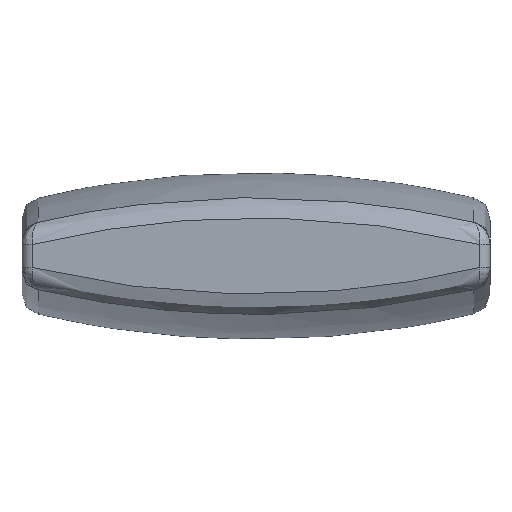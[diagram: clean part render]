
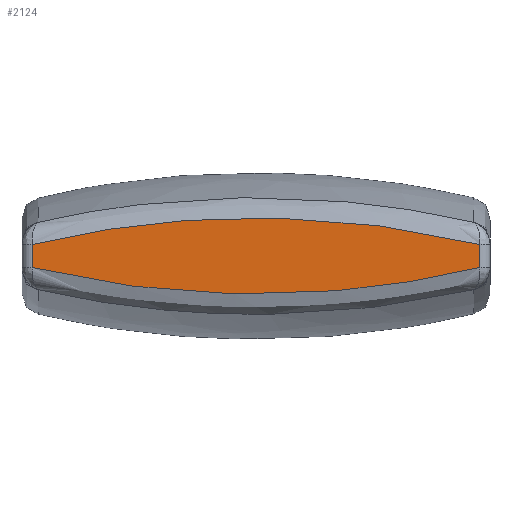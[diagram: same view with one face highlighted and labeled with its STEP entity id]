
A CAD part, front view. The second image highlights one B-rep face of the part: STEP entity #2124.
In plain terms, the highlighted planar face has unit normal (0, -1, 0).
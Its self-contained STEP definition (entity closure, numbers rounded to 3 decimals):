
#2 = EDGE_CURVE ( 'NONE', #232, #815, #2597, .T. ) ;
#55 = CARTESIAN_POINT ( 'NONE',  ( 0., -225., -881.705 ) ) ;
#73 = LINE ( 'NONE', #2615, #495 ) ;
#119 = CARTESIAN_POINT ( 'NONE',  ( 144.021, -225., 25.48 ) ) ;
#123 = ORIENTED_EDGE ( 'NONE', *, *, #2, .T. ) ;
#177 = VERTEX_POINT ( 'NONE', #647 ) ;
#192 = DIRECTION ( 'NONE',  ( 0., 0., 1. ) ) ;
#232 = VERTEX_POINT ( 'NONE', #2120 ) ;
#237 = CARTESIAN_POINT ( 'NONE',  ( -90.178, -225., -32.432 ) ) ;
#246 = VECTOR ( 'NONE', #1822, 1000. ) ;
#358 = CARTESIAN_POINT ( 'NONE',  ( -130.611, -225., 27.346 ) ) ;
#384 = CARTESIAN_POINT ( 'NONE',  ( 36.335, -225., 36.164 ) ) ;
#402 = CARTESIAN_POINT ( 'NONE',  ( 72.367, -225., 34.019 ) ) ;
#477 = CARTESIAN_POINT ( 'NONE',  ( -130.611, -225., -27.346 ) ) ;
#491 = CARTESIAN_POINT ( 'NONE',  ( -36.058, -225., -36.175 ) ) ;
#495 = VECTOR ( 'NONE', #1068, 1000. ) ;
#554 = VECTOR ( 'NONE', #678, 1000. ) ;
#558 = VECTOR ( 'NONE', #2812, 1000. ) ;
#604 = CARTESIAN_POINT ( 'NONE',  ( -112.657, -225., 29.755 ) ) ;
#639 = CARTESIAN_POINT ( 'NONE',  ( -17.972, -225., 36.71 ) ) ;
#643 = VERTEX_POINT ( 'NONE', #2849 ) ;
#647 = CARTESIAN_POINT ( 'NONE',  ( 215., -225., -11.081 ) ) ;
#658 = CARTESIAN_POINT ( 'NONE',  ( -179.678, -225., 19.069 ) ) ;
#678 = DIRECTION ( 'NONE',  ( 0., 0., -1. ) ) ;
#686 = CARTESIAN_POINT ( 'NONE',  ( 90.332, -225., -32.415 ) ) ;
#706 = CARTESIAN_POINT ( 'NONE',  ( -152.967, -225., -23.872 ) ) ;
#795 = CARTESIAN_POINT ( 'NONE',  ( 215., -225., -881.705 ) ) ;
#815 = VERTEX_POINT ( 'NONE', #2269 ) ;
#850 = CARTESIAN_POINT ( 'NONE',  ( -126.129, -225., 27.981 ) ) ;
#866 = CARTESIAN_POINT ( 'NONE',  ( -36.058, -225., 36.175 ) ) ;
#919 = CARTESIAN_POINT ( 'NONE',  ( -215., -225., -881.705 ) ) ;
#929 = EDGE_CURVE ( 'NONE', #643, #2736, #2184, .T. ) ;
#962 = CARTESIAN_POINT ( 'NONE',  ( 179.632, -225., -18.942 ) ) ;
#972 = VERTEX_POINT ( 'NONE', #3328 ) ;
#1009 = CARTESIAN_POINT ( 'NONE',  ( 36.335, -225., -36.164 ) ) ;
#1021 = CARTESIAN_POINT ( 'NONE',  ( -144.039, -225., -25.341 ) ) ;
#1062 = CARTESIAN_POINT ( 'NONE',  ( -215., -225., -11.07 ) ) ;
#1068 = DIRECTION ( 'NONE',  ( 0., 0., 1. ) ) ;
#1117 = VERTEX_POINT ( 'NONE', #1430 ) ;
#1144 = CARTESIAN_POINT ( 'NONE',  ( 126.158, -225., 28.146 ) ) ;
#1188 = VERTEX_POINT ( 'NONE', #1466 ) ;
#1211 = CARTESIAN_POINT ( 'NONE',  ( -197.388, -225., -15.34 ) ) ;
#1230 = CARTESIAN_POINT ( 'NONE',  ( -215., -225., -11.081 ) ) ;
#1268 = DIRECTION ( 'NONE',  ( 1., 0., 0. ) ) ;
#1315 = LINE ( 'NONE', #795, #246 ) ;
#1400 = CARTESIAN_POINT ( 'NONE',  ( -152.967, -225., 23.872 ) ) ;
#1404 = ORIENTED_EDGE ( 'NONE', *, *, #2036, .T. ) ;
#1424 = B_SPLINE_CURVE_WITH_KNOTS ( 'NONE', 3,
 ( #1230, #1211, #1513, #706, #1021, #477, #2019, #2547, #3004, #237, #2516, #491, #1481, #2299, #1009, #3329, #686, #2033, #2244, #3071, #962, #1784, #2813, #1732 ),
 .UNSPECIFIED., .F., .F.,
 ( 4, 2, 2, 2, 2, 2, 2, 2, 2, 2, 2, 4 ),
 ( 0., 0.054, 0.081, 0.095, 0.109, 0.163, 0.217, 0.271, 0.326, 0.38, 0.407, 0.434 ),
 .UNSPECIFIED. ) ;
#1430 = CARTESIAN_POINT ( 'NONE',  ( 215., -225., -11.07 ) ) ;
#1439 = EDGE_CURVE ( 'NONE', #177, #1117, #73, .T. ) ;
#1466 = CARTESIAN_POINT ( 'NONE',  ( -215., -225., -11.081 ) ) ;
#1481 = CARTESIAN_POINT ( 'NONE',  ( -17.972, -225., -36.71 ) ) ;
#1513 = CARTESIAN_POINT ( 'NONE',  ( -179.678, -225., -19.069 ) ) ;
#1664 = CARTESIAN_POINT ( 'NONE',  ( -215., -225., 11.081 ) ) ;
#1687 = DIRECTION ( 'NONE',  ( 0., 0., -1. ) ) ;
#1732 = CARTESIAN_POINT ( 'NONE',  ( 215., -225., -11.081 ) ) ;
#1745 = AXIS2_PLACEMENT_3D ( 'NONE', #55, #2055, #1268 ) ;
#1763 = ORIENTED_EDGE ( 'NONE', *, *, #2718, .T. ) ;
#1784 = CARTESIAN_POINT ( 'NONE',  ( 197.359, -225., -15.209 ) ) ;
#1822 = DIRECTION ( 'NONE',  ( 0., 0., 1. ) ) ;
#1908 = CARTESIAN_POINT ( 'NONE',  ( -90.178, -225., 32.432 ) ) ;
#1943 = CARTESIAN_POINT ( 'NONE',  ( 215., -225., 11.081 ) ) ;
#2019 = CARTESIAN_POINT ( 'NONE',  ( -126.129, -225., -27.981 ) ) ;
#2033 = CARTESIAN_POINT ( 'NONE',  ( 126.158, -225., -28.146 ) ) ;
#2036 = EDGE_CURVE ( 'NONE', #815, #643, #3052, .T. ) ;
#2055 = DIRECTION ( 'NONE',  ( 0., -1., 0. ) ) ;
#2056 = CARTESIAN_POINT ( 'NONE',  ( 215., -225., -881.705 ) ) ;
#2066 = VECTOR ( 'NONE', #1687, 1000. ) ;
#2109 = FACE_OUTER_BOUND ( 'NONE', #2756, .T. ) ;
#2120 = CARTESIAN_POINT ( 'NONE',  ( 215., -225., 11.081 ) ) ;
#2124 = ADVANCED_FACE ( 'NONE', ( #2109 ), #3110, .T. ) ;
#2184 = LINE ( 'NONE', #3219, #558 ) ;
#2244 = CARTESIAN_POINT ( 'NONE',  ( 144.021, -225., -25.48 ) ) ;
#2269 = CARTESIAN_POINT ( 'NONE',  ( -215., -225., 11.081 ) ) ;
#2299 = CARTESIAN_POINT ( 'NONE',  ( 18.267, -225., -36.704 ) ) ;
#2321 = LINE ( 'NONE', #2056, #2654 ) ;
#2383 = ORIENTED_EDGE ( 'NONE', *, *, #2995, .T. ) ;
#2390 = EDGE_CURVE ( 'NONE', #2736, #1188, #2940, .T. ) ;
#2433 = CARTESIAN_POINT ( 'NONE',  ( -117.152, -225., 29.186 ) ) ;
#2450 = CARTESIAN_POINT ( 'NONE',  ( 18.267, -225., 36.704 ) ) ;
#2454 = ORIENTED_EDGE ( 'NONE', *, *, #2390, .T. ) ;
#2468 = CARTESIAN_POINT ( 'NONE',  ( -197.388, -225., 15.34 ) ) ;
#2516 = CARTESIAN_POINT ( 'NONE',  ( -72.161, -225., -34.036 ) ) ;
#2547 = CARTESIAN_POINT ( 'NONE',  ( -117.152, -225., -29.186 ) ) ;
#2571 = ORIENTED_EDGE ( 'NONE', *, *, #2632, .T. ) ;
#2597 = B_SPLINE_CURVE_WITH_KNOTS ( 'NONE', 3,
 ( #1943, #3213, #2920, #2907, #2662, #119, #1144, #3198, #402, #384, #2450, #639, #866, #2713, #1908, #604, #2433, #850, #358, #3233, #1400, #658, #2468, #1664 ),
 .UNSPECIFIED., .F., .F.,
 ( 4, 2, 2, 2, 2, 2, 2, 2, 2, 2, 2, 4 ),
 ( 0., 0.027, 0.054, 0.109, 0.163, 0.217, 0.272, 0.326, 0.34, 0.353, 0.38, 0.435 ),
 .UNSPECIFIED. ) ;
#2615 = CARTESIAN_POINT ( 'NONE',  ( 215., -225., -881.705 ) ) ;
#2632 = EDGE_CURVE ( 'NONE', #972, #232, #2321, .T. ) ;
#2654 = VECTOR ( 'NONE', #192, 1000. ) ;
#2662 = CARTESIAN_POINT ( 'NONE',  ( 170.736, -225., 20.678 ) ) ;
#2713 = CARTESIAN_POINT ( 'NONE',  ( -72.161, -225., 34.036 ) ) ;
#2718 = EDGE_CURVE ( 'NONE', #1117, #972, #1315, .T. ) ;
#2736 = VERTEX_POINT ( 'NONE', #1062 ) ;
#2756 = EDGE_LOOP ( 'NONE', ( #2454, #2383, #2775, #1763, #2571, #123, #1404, #2896 ) ) ;
#2775 = ORIENTED_EDGE ( 'NONE', *, *, #1439, .T. ) ;
#2812 = DIRECTION ( 'NONE',  ( 0., 0., -1. ) ) ;
#2813 = CARTESIAN_POINT ( 'NONE',  ( 206.194, -225., -13.211 ) ) ;
#2849 = CARTESIAN_POINT ( 'NONE',  ( -215., -225., 11.07 ) ) ;
#2896 = ORIENTED_EDGE ( 'NONE', *, *, #929, .T. ) ;
#2907 = CARTESIAN_POINT ( 'NONE',  ( 179.632, -225., 18.942 ) ) ;
#2920 = CARTESIAN_POINT ( 'NONE',  ( 197.359, -225., 15.209 ) ) ;
#2940 = LINE ( 'NONE', #919, #2066 ) ;
#2995 = EDGE_CURVE ( 'NONE', #1188, #177, #1424, .T. ) ;
#3004 = CARTESIAN_POINT ( 'NONE',  ( -112.657, -225., -29.755 ) ) ;
#3052 = LINE ( 'NONE', #3273, #554 ) ;
#3071 = CARTESIAN_POINT ( 'NONE',  ( 170.736, -225., -20.678 ) ) ;
#3110 = PLANE ( 'NONE',  #1745 ) ;
#3198 = CARTESIAN_POINT ( 'NONE',  ( 90.332, -225., 32.415 ) ) ;
#3213 = CARTESIAN_POINT ( 'NONE',  ( 206.194, -225., 13.211 ) ) ;
#3219 = CARTESIAN_POINT ( 'NONE',  ( -215., -225., -881.705 ) ) ;
#3233 = CARTESIAN_POINT ( 'NONE',  ( -144.039, -225., 25.341 ) ) ;
#3273 = CARTESIAN_POINT ( 'NONE',  ( -215., -225., -881.705 ) ) ;
#3328 = CARTESIAN_POINT ( 'NONE',  ( 215., -225., 11.07 ) ) ;
#3329 = CARTESIAN_POINT ( 'NONE',  ( 72.367, -225., -34.019 ) ) ;
